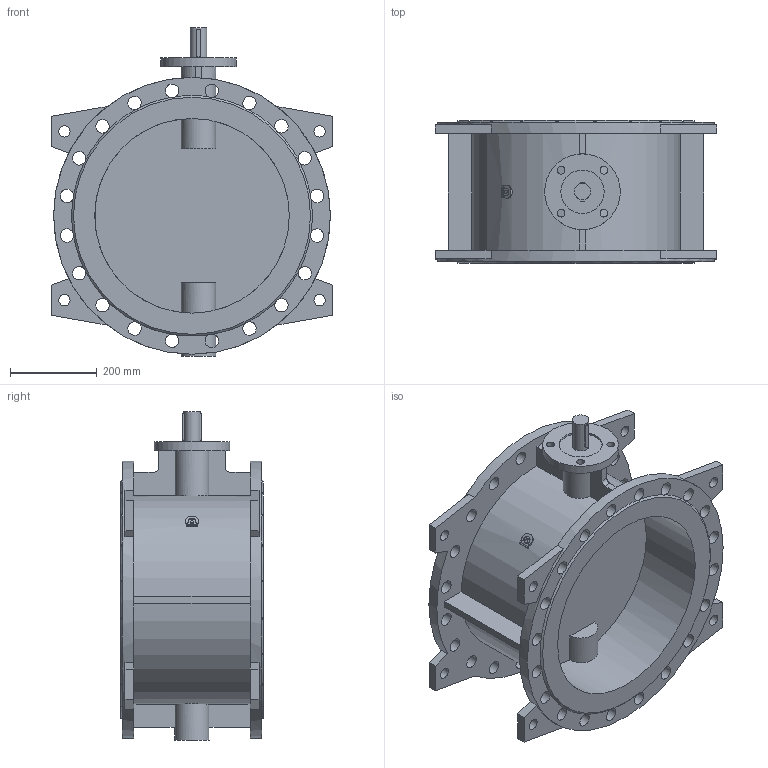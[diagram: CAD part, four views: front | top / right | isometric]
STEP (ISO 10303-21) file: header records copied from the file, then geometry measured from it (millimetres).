
FILE_DESCRIPTION(('STEP AP203'), '1');
FILE_NAME('Çàòâîð 023F.Z DN450 PN16_èñï', '', ('UNSPECIFIED'), ('UNSPECIFIED'), 'ASCON STEP Converter 1.6', 'ASCON Math Kernel', '');
FILE_SCHEMA(('CONFIG_CONTROL_DESIGN'));
Length unit declared in the file: millimetre
Bounding box: 650 x 330 x 760 mm (x, y, z)
Volume: 25384934.1 mm3; surface area: 2223005.8 mm2
Topology: 1 solids, 1 shells, 166 faces, 573 edges, 382 vertices
Faces by surface type: plane 85, cylinder 79, cone 2
Full cylindrical faces by diameter (mm): 18 x4, 26 x8, 31 x40, 38 x1, 80 x1, 100 x1, 175 x1, 450 x2, 640 x2
Entity records: 10937 total; most frequent: CARTESIAN_POINT 4545, DIRECTION 1038, ORIENTED_EDGE 1020, EDGE_CURVE 510, AXIS2_PLACEMENT_3D 420, VERTEX_POINT 382, EDGE_LOOP 306, CIRCLE 253
